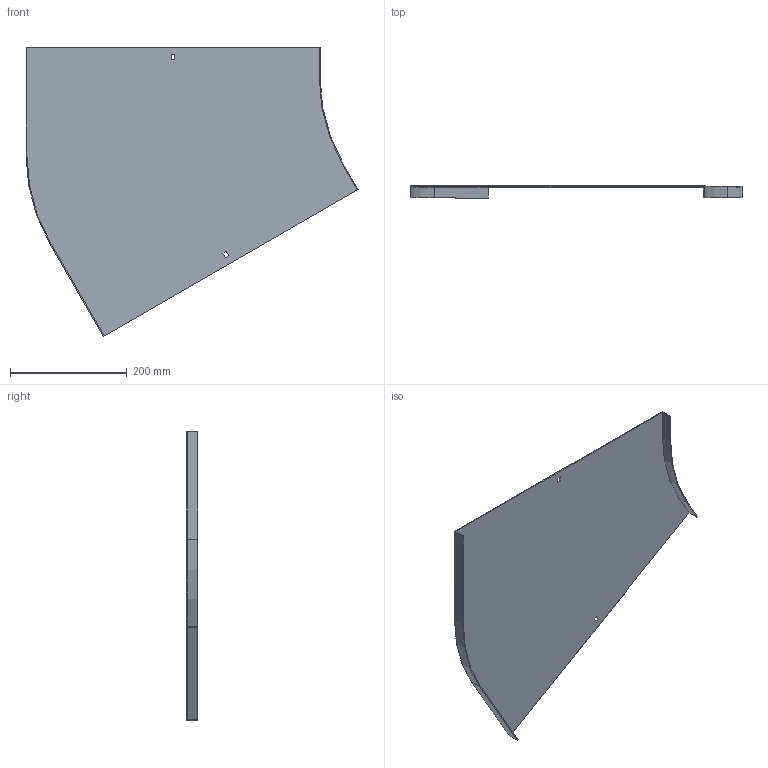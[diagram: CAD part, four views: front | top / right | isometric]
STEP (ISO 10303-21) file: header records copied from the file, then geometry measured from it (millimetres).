
FILE_DESCRIPTION (( 'STEP AP214' ), '1' );
FILE_NAME ('B2_12N3R500.step', '2025-02-21T10:49:32', ( '' ), ( '' ), 'SwSTEP 2.0', 'SolidWorks 2023', '' );
FILE_SCHEMA (( 'AUTOMOTIVE_DESIGN' ));
Length unit declared in the file: millimetre
Products named in the file (1): B2_12N3R500
Bounding box: 567.99 x 20 x 494.05 mm (x, y, z)
Volume: 319345.8 mm3; surface area: 428680.6 mm2
Topology: 1 solids, 1 shells, 26 faces, 72 edges, 48 vertices
Faces by surface type: plane 22, cylinder 4
Entity records: 855 total; most frequent: CARTESIAN_POINT 147, ORIENTED_EDGE 144, DIRECTION 134, EDGE_CURVE 72, LINE 64, VECTOR 64, VERTEX_POINT 48, AXIS2_PLACEMENT_3D 35
